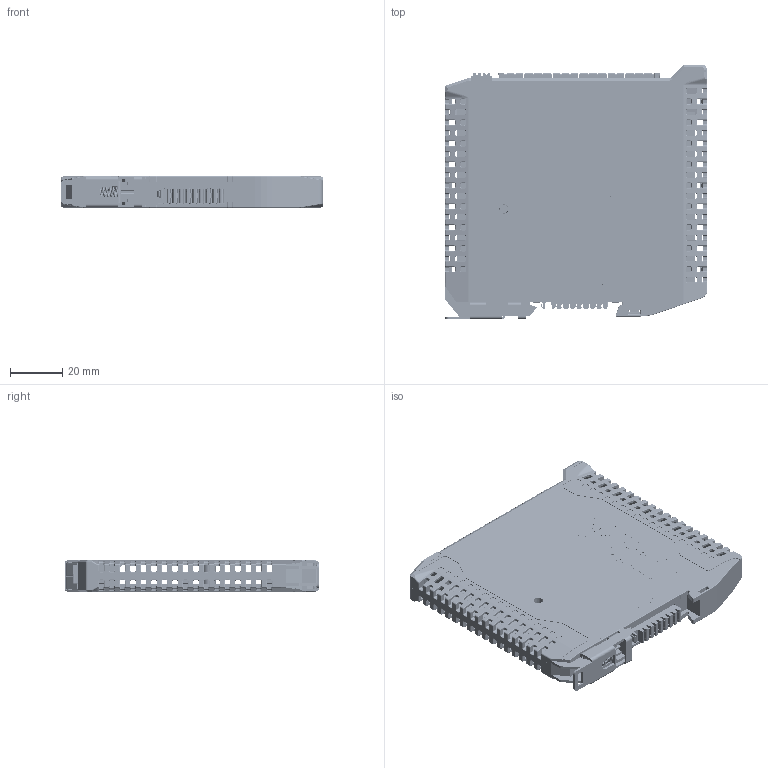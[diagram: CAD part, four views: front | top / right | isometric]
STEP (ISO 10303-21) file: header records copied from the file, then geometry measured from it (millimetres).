
FILE_DESCRIPTION((''),'2;1');
FILE_NAME('DAUDIN_GF2-DQ01T','2022-06-30T',('Rex.Song'),(''),'CREO PARAMETRIC BY PTC INC, 2015480','CREO PARAMETRIC BY PTC INC, 2015480','');
FILE_SCHEMA(('CONFIG_CONTROL_DESIGN'));
Products named in the file (1): DAUDIN_GF2-DQ01T
Bounding box: 100 x 97 x 12 mm (x, y, z)
Volume: 39203.2 mm3; surface area: 66016.7 mm2
Topology: 2 solids, 2 shells, 10671 faces, 28918 edges, 18096 vertices
Faces by surface type: plane 4491, cylinder 3449, extrusion 1085, bspline 859, torus 448, cone 178, sphere 158, revolution 3
Entity records: 467631 total; most frequent: CARTESIAN_POINT 204976, ORIENTED_EDGE 57508, DIRECTION 49001, EDGE_CURVE 28754, VECTOR 18430, VERTEX_POINT 18096, LINE 17345, AXIS2_PLACEMENT_3D 15284
